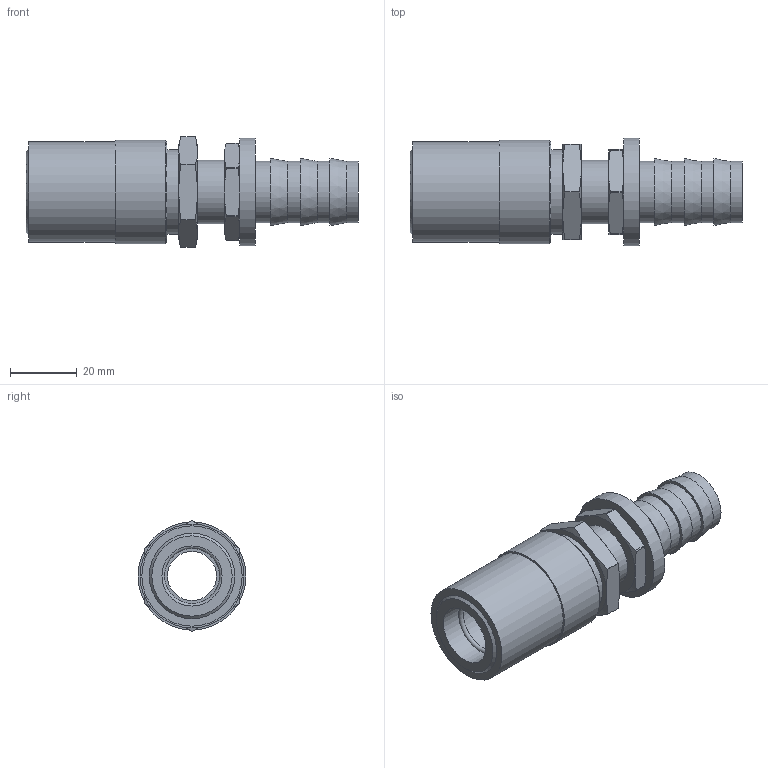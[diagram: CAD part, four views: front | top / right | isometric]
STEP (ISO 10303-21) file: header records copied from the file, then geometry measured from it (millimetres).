
FILE_DESCRIPTION(/* description */ ('STEP AP214'),/* implementation_level */ '2;1');
FILE_NAME(/* name */ 'JSL0506-V',/* time_stamp */ '2024-12-19T09:08:07+01:00',/* author */ ('License CC BY-ND 4.0'),/* organization */ ('CADENAS'),/* preprocessor_version */ 'ST-DEVELOPER v19.3',/* originating_system */ 'PARTsolutions',/* authorisation */ ' ');
FILE_SCHEMA (('AUTOMOTIVE_DESIGN {1 0 10303 214 3 1 1}'));
Length unit declared in the file: inch
Products named in the file (1): JSL0506-V
Bounding box: 99.21 x 32.26 x 32.99 mm (x, y, z)
Volume: 34556.4 mm3; surface area: 16101.2 mm2
Topology: 1 solids, 1 shells, 72 faces, 159 edges, 102 vertices
Faces by surface type: plane 27, cylinder 25, cone 19, torus 1
Full cylindrical faces by diameter (mm): 14.63 x1, 17.983 x2, 18.288 x5, 19.05 x1, 25.4 x1, 29.972 x1, 30.988 x1, 32.258 x1
Entity records: 1958 total; most frequent: CARTESIAN_POINT 429, DIRECTION 316, ORIENTED_EDGE 272, AXIS2_PLACEMENT_3D 143, EDGE_CURVE 136, EDGE_LOOP 108, FACE_BOUND 108, VERTEX_POINT 100
